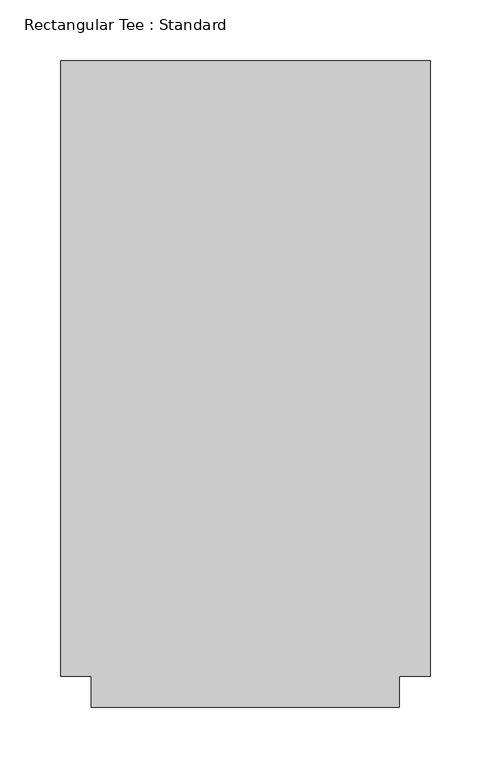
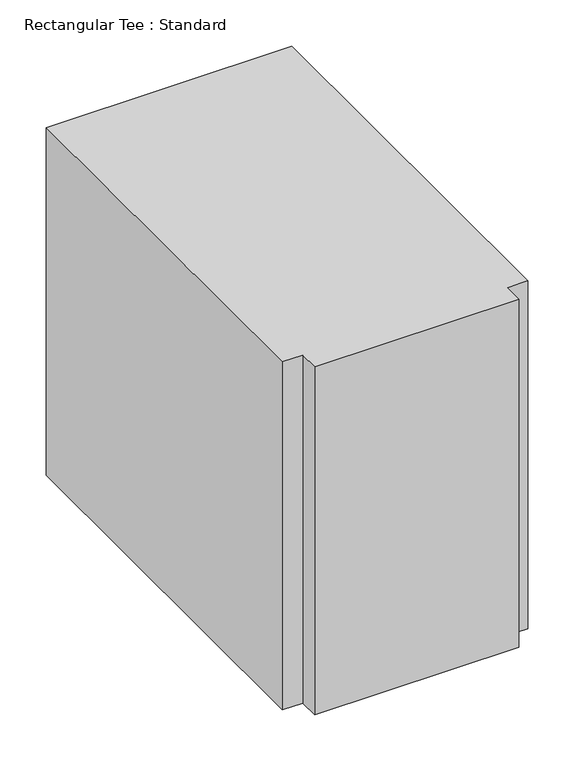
"""IFC4 building model written with IfcOpenShell, lengths in millimetres: duct fitting geometry, Rectangular Tee : Standard."""

from ifc_helpers import new_model, si_unit, frame, origin, place, context, project, spatial, polyline, outline, extrude, source, transform, mapped, element, save


def rectangular_tee_standard_fc6ba10c(model_context):
    return source(origin(), model_context, "Body", "SweptSolid", [
        extrude(outline(polyline([(-152.4, -254.0), (-152.4, 254.0), (152.4, 254.0), (152.4, -254.0), (127.0, -254.0), (127.0, -279.4), (-127.0, -279.4), (-127.0, -254.0), (-152.4, -254.0)])), frame((0.0, 0.0, -228.6), z_axis=(0.0, 0.0, 1.0), x_axis=(1.0, 0.0, 0.0)), (0.0, 0.0, 1.0), 457.2),
    ])


if __name__ == "__main__":
    model = new_model("IFC4")
    model_context = context("Model", 3, world=origin())
    ifc_project = project(units=[si_unit("LENGTHUNIT", "METRE", prefix="MILLI")], contexts=[model_context])
    site = spatial("IfcSite", under=ifc_project)
    building = spatial("IfcBuilding", under=site)
    placement = place(None, origin())
    rectangular_tee_standard_shape = rectangular_tee_standard_fc6ba10c(model_context)
    element("IfcDuctFitting", 1, ObjectType="Rectangular Tee : Standard", at=placement, inside=building, context=model_context, shape_type="MappedRepresentation", body=[
        mapped(rectangular_tee_standard_shape, transform((0.0, 0.0, 0.0), x_axis=(1.0, 0.0, 0.0), y_axis=(0.0, 1.0, 0.0), z_axis=(0.0, 0.0, 1.0))),
    ])
    save(model, "model.ifc")
